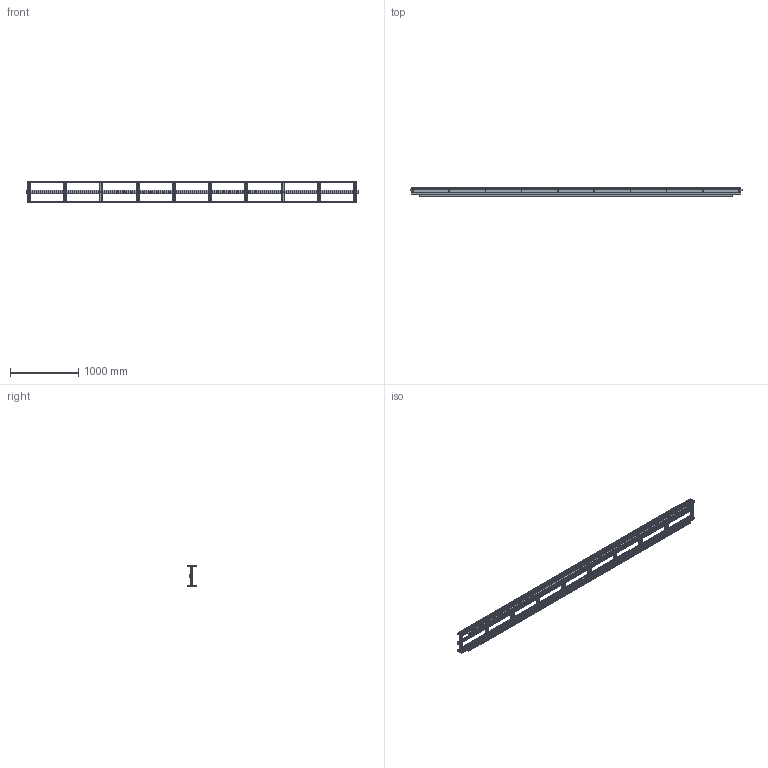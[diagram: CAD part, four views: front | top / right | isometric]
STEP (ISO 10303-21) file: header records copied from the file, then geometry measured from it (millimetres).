
FILE_DESCRIPTION (( 'STEP AP203' ), '1' );
FILE_NAME ('2000.1200.001.STEP', '2015-04-15T14:41:57', ( '' ), ( '' ), 'SwSTEP 2.0', 'SolidWorks 2012', '' );
FILE_SCHEMA (( 'CONFIG_CONTROL_DESIGN' ));
Length unit declared in the file: millimetre
Products named in the file (1): 2000.1200.001
Bounding box: 4858 x 134.24 x 320 mm (x, y, z)
Volume: 12374291.8 mm3; surface area: 9256519.3 mm2
Topology: 19 solids, 19 shells, 1544 faces, 4496 edges, 2960 vertices
Faces by surface type: plane 844, cylinder 648, cone 52
Entity records: 53825 total; most frequent: CARTESIAN_POINT 11321, ORIENTED_EDGE 8992, DIRECTION 8774, EDGE_CURVE 4496, LINE 3068, VECTOR 3068, VERTEX_POINT 2960, AXIS2_PLACEMENT_3D 2853
